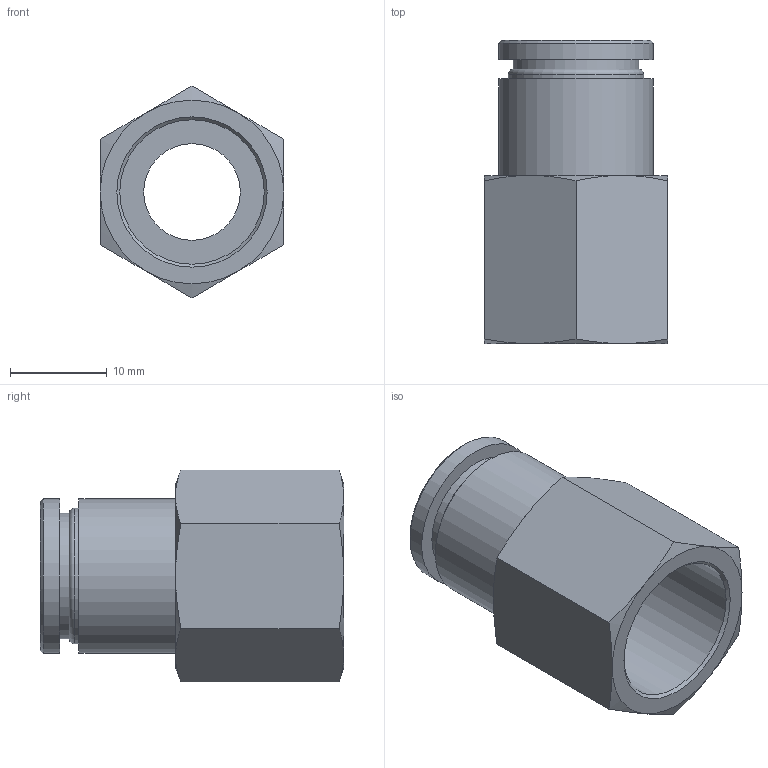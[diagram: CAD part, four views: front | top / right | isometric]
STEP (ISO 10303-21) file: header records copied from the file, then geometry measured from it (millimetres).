
FILE_DESCRIPTION(/* description */ (''),/* implementation_level */ '2;1');
FILE_NAME(/* name */ 'LXH14 0012 B3.stp',/* time_stamp */ '2026-04-27T18:56:40+02:00',/* author */ ('freju'),/* organization */ (''),/* preprocessor_version */ 'ST-DEVELOPER v20.1',/* originating_system */ 'Autodesk Inventor 2026',/* authorisation */ '');
FILE_SCHEMA (('AUTOMOTIVE_DESIGN { 1 0 10303 214 3 1 1 }'));
Length unit declared in the file: millimetre
Products named in the file (1): LXH14 0012 B3
Bounding box: 19 x 31.4 x 21.94 mm (x, y, z)
Volume: 3905.9 mm3; surface area: 3671.6 mm2
Topology: 1 solids, 1 shells, 35 faces, 72 edges, 44 vertices
Faces by surface type: cone 14, plane 13, cylinder 7, torus 1
Full cylindrical faces by diameter (mm): 10 x1, 12 x1, 13 x1, 14 x1, 14.95 x1, 16 x2
Entity records: 946 total; most frequent: CARTESIAN_POINT 200, DIRECTION 153, ORIENTED_EDGE 144, EDGE_CURVE 72, AXIS2_PLACEMENT_3D 69, VERTEX_POINT 44, EDGE_LOOP 42, FACE_OUTER_BOUND 35
